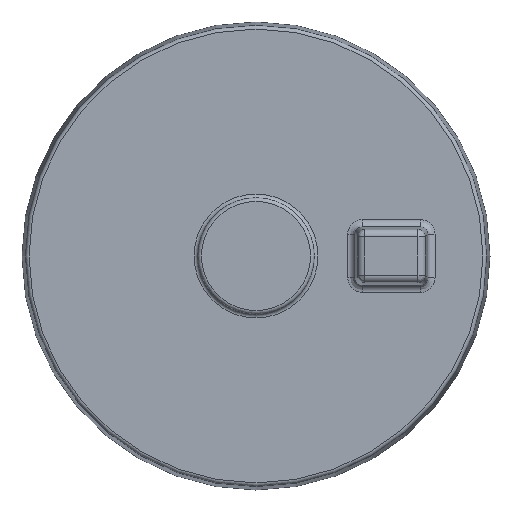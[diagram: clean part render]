
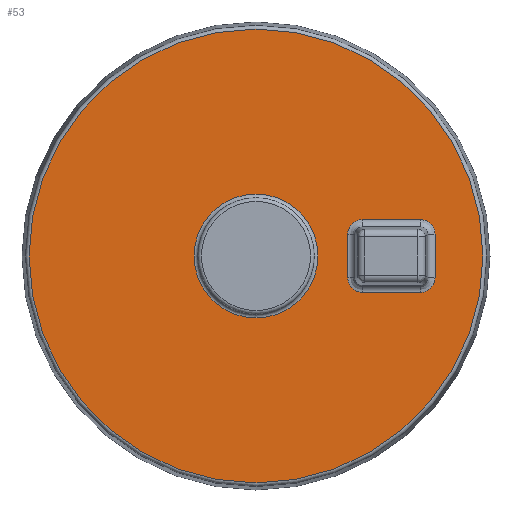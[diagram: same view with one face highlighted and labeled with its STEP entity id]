
A CAD part, left-side view. The second image highlights one B-rep face of the part: STEP entity #53.
In plain terms, the highlighted planar face has unit normal (-1, 0, 0).
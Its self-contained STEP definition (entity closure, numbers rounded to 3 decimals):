
#53=ADVANCED_FACE('',(#99,#101,#103),#105,.T.);
#99=FACE_BOUND('',#100,.T.);
#100=EDGE_LOOP('',(#717));
#101=FACE_BOUND('',#102,.T.);
#102=EDGE_LOOP('',(#718));
#103=FACE_BOUND('',#104,.T.);
#104=EDGE_LOOP('',(#719,#720,#721,#722,#723,#724,#725,#726));
#105=PLANE('',#106);
#106=AXIS2_PLACEMENT_3D('',#107,#108,#109);
#107=CARTESIAN_POINT('',(0.,0.,0.));
#108=DIRECTION('',(-1.,0.,0.));
#109=DIRECTION('',(0.,0.,1.));
#717=ORIENTED_EDGE('',*,*,#861,.T.);
#718=ORIENTED_EDGE('',*,*,#862,.F.);
#719=ORIENTED_EDGE('',*,*,#863,.F.);
#720=ORIENTED_EDGE('',*,*,#864,.F.);
#721=ORIENTED_EDGE('',*,*,#865,.F.);
#722=ORIENTED_EDGE('',*,*,#866,.F.);
#723=ORIENTED_EDGE('',*,*,#867,.F.);
#724=ORIENTED_EDGE('',*,*,#868,.F.);
#725=ORIENTED_EDGE('',*,*,#869,.F.);
#726=ORIENTED_EDGE('',*,*,#870,.F.);
#861=EDGE_CURVE('',#933,#933,#934,.T.);
#862=EDGE_CURVE('',#935,#935,#936,.T.);
#863=EDGE_CURVE('',#937,#938,#939,.T.);
#864=EDGE_CURVE('',#940,#937,#941,.F.);
#865=EDGE_CURVE('',#942,#940,#943,.T.);
#866=EDGE_CURVE('',#944,#942,#945,.F.);
#867=EDGE_CURVE('',#946,#944,#947,.T.);
#868=EDGE_CURVE('',#948,#946,#949,.F.);
#869=EDGE_CURVE('',#950,#948,#951,.T.);
#870=EDGE_CURVE('',#938,#950,#952,.F.);
#933=VERTEX_POINT('',#1053);
#934=CIRCLE('',#1054,31.001);
#935=VERTEX_POINT('',#1058);
#936=CIRCLE('',#1059,8.458);
#937=VERTEX_POINT('',#1063);
#938=VERTEX_POINT('',#1064);
#939=LINE('',#1065,#1066);
#940=VERTEX_POINT('',#1068);
#941=(BOUNDED_CURVE()B_SPLINE_CURVE(3,
(#1069,#1070,#1071,#1072),
.UNSPECIFIED.,.F.,.F.)B_SPLINE_CURVE_WITH_KNOTS((4,4),
(0.,1.),
.UNSPECIFIED.)CURVE()GEOMETRIC_REPRESENTATION_ITEM()RATIONAL_B_SPLINE_CURVE((1.,
0.805,0.805,1.))REPRESENTATION_ITEM(''));
#942=VERTEX_POINT('',#1073);
#943=LINE('',#1074,#1075);
#944=VERTEX_POINT('',#1077);
#945=(BOUNDED_CURVE()B_SPLINE_CURVE(3,
(#1078,#1079,#1080,#1081),
.UNSPECIFIED.,.F.,.F.)B_SPLINE_CURVE_WITH_KNOTS((4,4),
(0.,1.),
.UNSPECIFIED.)CURVE()GEOMETRIC_REPRESENTATION_ITEM()RATIONAL_B_SPLINE_CURVE((1.,
0.805,0.805,1.))REPRESENTATION_ITEM(''));
#946=VERTEX_POINT('',#1082);
#947=LINE('',#1083,#1084);
#948=VERTEX_POINT('',#1086);
#949=(BOUNDED_CURVE()B_SPLINE_CURVE(3,
(#1087,#1088,#1089,#1090),
.UNSPECIFIED.,.F.,.F.)B_SPLINE_CURVE_WITH_KNOTS((4,4),
(0.,1.),
.UNSPECIFIED.)CURVE()GEOMETRIC_REPRESENTATION_ITEM()RATIONAL_B_SPLINE_CURVE((1.,
0.805,0.805,1.))REPRESENTATION_ITEM(''));
#950=VERTEX_POINT('',#1091);
#951=LINE('',#1092,#1093);
#952=(BOUNDED_CURVE()B_SPLINE_CURVE(3,
(#1095,#1096,#1097,#1098),
.UNSPECIFIED.,.F.,.F.)B_SPLINE_CURVE_WITH_KNOTS((4,4),
(0.,1.),
.UNSPECIFIED.)CURVE()GEOMETRIC_REPRESENTATION_ITEM()RATIONAL_B_SPLINE_CURVE((1.,
0.805,0.805,1.))REPRESENTATION_ITEM(''));
#1053=CARTESIAN_POINT('',(0.,0.,31.001));
#1054=AXIS2_PLACEMENT_3D('',#1055,#1056,#1057);
#1055=CARTESIAN_POINT('',(0.,0.,0.));
#1056=DIRECTION('',(-1.,0.,0.));
#1057=DIRECTION('',(0.,0.,1.));
#1058=CARTESIAN_POINT('',(0.,0.,8.458));
#1059=AXIS2_PLACEMENT_3D('',#1060,#1061,#1062);
#1060=CARTESIAN_POINT('',(0.,0.,0.));
#1061=DIRECTION('',(-1.,0.,0.));
#1062=DIRECTION('',(0.,0.,1.));
#1063=CARTESIAN_POINT('',(0.,-14.533,-4.966));
#1064=CARTESIAN_POINT('',(0.,-22.467,-4.966));
#1065=CARTESIAN_POINT('',(0.,-14.533,-4.966));
#1066=VECTOR('',#1067,1.);
#1067=DIRECTION('',(0.,-1.,0.));
#1068=CARTESIAN_POINT('',(0.,-12.534,-2.967));
#1069=CARTESIAN_POINT('',(0.,-14.533,-4.966));
#1070=CARTESIAN_POINT('',(0.,-13.362,-4.966));
#1071=CARTESIAN_POINT('',(0.,-12.534,-4.138));
#1072=CARTESIAN_POINT('',(0.,-12.534,-2.967));
#1073=CARTESIAN_POINT('',(0.,-12.534,2.967));
#1074=CARTESIAN_POINT('',(0.,-12.534,2.967));
#1075=VECTOR('',#1076,1.);
#1076=DIRECTION('',(0.,0.,-1.));
#1077=CARTESIAN_POINT('',(0.,-14.533,4.966));
#1078=CARTESIAN_POINT('',(0.,-12.534,2.967));
#1079=CARTESIAN_POINT('',(0.,-12.534,4.138));
#1080=CARTESIAN_POINT('',(0.,-13.362,4.966));
#1081=CARTESIAN_POINT('',(0.,-14.533,4.966));
#1082=CARTESIAN_POINT('',(0.,-22.467,4.966));
#1083=CARTESIAN_POINT('',(0.,-22.467,4.966));
#1084=VECTOR('',#1085,1.);
#1085=DIRECTION('',(0.,1.,0.));
#1086=CARTESIAN_POINT('',(0.,-24.466,2.967));
#1087=CARTESIAN_POINT('',(0.,-22.467,4.966));
#1088=CARTESIAN_POINT('',(0.,-23.638,4.966));
#1089=CARTESIAN_POINT('',(0.,-24.466,4.138));
#1090=CARTESIAN_POINT('',(0.,-24.466,2.967));
#1091=CARTESIAN_POINT('',(0.,-24.466,-2.967));
#1092=CARTESIAN_POINT('',(0.,-24.466,-2.967));
#1093=VECTOR('',#1094,1.);
#1094=DIRECTION('',(0.,0.,1.));
#1095=CARTESIAN_POINT('',(0.,-24.466,-2.967));
#1096=CARTESIAN_POINT('',(0.,-24.466,-4.138));
#1097=CARTESIAN_POINT('',(0.,-23.638,-4.966));
#1098=CARTESIAN_POINT('',(0.,-22.467,-4.966));
